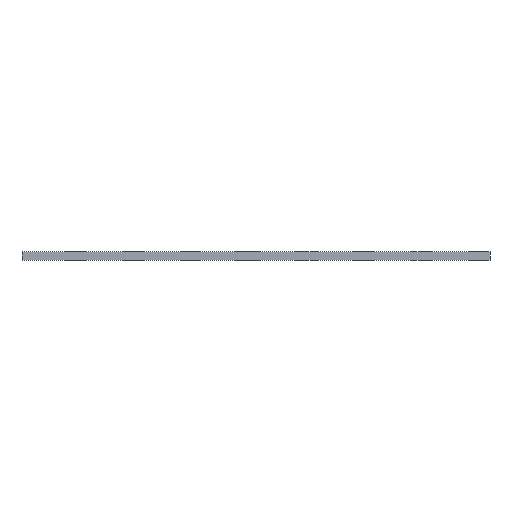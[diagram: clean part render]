
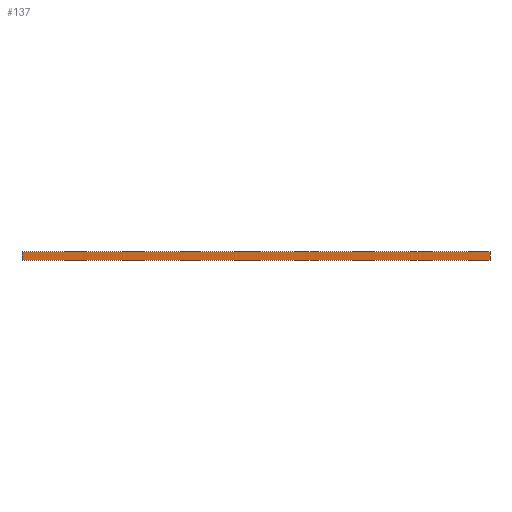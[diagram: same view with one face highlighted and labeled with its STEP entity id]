
A CAD part, front view. The second image highlights one B-rep face of the part: STEP entity #137.
In plain terms, the highlighted planar face has unit normal (0, -1, 0).
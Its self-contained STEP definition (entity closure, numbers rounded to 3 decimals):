
#21 = EDGE_CURVE('',#22,#24,#26,.T.);
#22 = VERTEX_POINT('',#23);
#23 = CARTESIAN_POINT('',(175.,104.,66.3));
#24 = VERTEX_POINT('',#25);
#25 = CARTESIAN_POINT('',(175.,104.,67.5));
#26 = SURFACE_CURVE('',#27,(#31,#43),.PCURVE_S1.);
#27 = LINE('',#28,#29);
#28 = CARTESIAN_POINT('',(175.,104.,66.3));
#29 = VECTOR('',#30,1.);
#30 = DIRECTION('',(0.,0.,1.));
#31 = PCURVE('',#32,#37);
#32 = PLANE('',#33);
#33 = AXIS2_PLACEMENT_3D('',#34,#35,#36);
#34 = CARTESIAN_POINT('',(175.,104.,66.3));
#35 = DIRECTION('',(1.,0.,0.));
#36 = DIRECTION('',(0.,0.,1.));
#37 = DEFINITIONAL_REPRESENTATION('',(#38),#42);
#38 = LINE('',#39,#40);
#39 = CARTESIAN_POINT('',(0.,0.));
#40 = VECTOR('',#41,1.);
#41 = DIRECTION('',(1.,0.));
#42 = ( GEOMETRIC_REPRESENTATION_CONTEXT(2) 
PARAMETRIC_REPRESENTATION_CONTEXT() REPRESENTATION_CONTEXT('2D SPACE',''
  ) );
#43 = PCURVE('',#44,#49);
#44 = PLANE('',#45);
#45 = AXIS2_PLACEMENT_3D('',#46,#47,#48);
#46 = CARTESIAN_POINT('',(175.,104.,66.3));
#47 = DIRECTION('',(0.,1.,0.));
#48 = DIRECTION('',(0.,0.,1.));
#49 = DEFINITIONAL_REPRESENTATION('',(#50),#54);
#50 = LINE('',#51,#52);
#51 = CARTESIAN_POINT('',(0.,0.));
#52 = VECTOR('',#53,1.);
#53 = DIRECTION('',(1.,0.));
#54 = ( GEOMETRIC_REPRESENTATION_CONTEXT(2) 
PARAMETRIC_REPRESENTATION_CONTEXT() REPRESENTATION_CONTEXT('2D SPACE',''
  ) );
#72 = PLANE('',#73);
#73 = AXIS2_PLACEMENT_3D('',#74,#75,#76);
#74 = CARTESIAN_POINT('',(175.,104.,66.3));
#75 = DIRECTION('',(0.,0.,1.));
#76 = DIRECTION('',(1.,0.,0.));
#126 = PLANE('',#127);
#127 = AXIS2_PLACEMENT_3D('',#128,#129,#130);
#128 = CARTESIAN_POINT('',(175.,104.,67.5));
#129 = DIRECTION('',(0.,0.,1.));
#130 = DIRECTION('',(1.,0.,0.));
#137 = ADVANCED_FACE('',(#138),#44,.F.);
#138 = FACE_BOUND('',#139,.F.);
#139 = EDGE_LOOP('',(#140,#163,#164,#187));
#140 = ORIENTED_EDGE('',*,*,#141,.F.);
#141 = EDGE_CURVE('',#22,#142,#144,.T.);
#142 = VERTEX_POINT('',#143);
#143 = CARTESIAN_POINT('',(240.,104.,66.3));
#144 = SURFACE_CURVE('',#145,(#149,#156),.PCURVE_S1.);
#145 = LINE('',#146,#147);
#146 = CARTESIAN_POINT('',(175.,104.,66.3));
#147 = VECTOR('',#148,1.);
#148 = DIRECTION('',(1.,0.,0.));
#149 = PCURVE('',#44,#150);
#150 = DEFINITIONAL_REPRESENTATION('',(#151),#155);
#151 = LINE('',#152,#153);
#152 = CARTESIAN_POINT('',(0.,0.));
#153 = VECTOR('',#154,1.);
#154 = DIRECTION('',(0.,1.));
#155 = ( GEOMETRIC_REPRESENTATION_CONTEXT(2) 
PARAMETRIC_REPRESENTATION_CONTEXT() REPRESENTATION_CONTEXT('2D SPACE',''
  ) );
#156 = PCURVE('',#72,#157);
#157 = DEFINITIONAL_REPRESENTATION('',(#158),#162);
#158 = LINE('',#159,#160);
#159 = CARTESIAN_POINT('',(0.,0.));
#160 = VECTOR('',#161,1.);
#161 = DIRECTION('',(1.,0.));
#162 = ( GEOMETRIC_REPRESENTATION_CONTEXT(2) 
PARAMETRIC_REPRESENTATION_CONTEXT() REPRESENTATION_CONTEXT('2D SPACE',''
  ) );
#163 = ORIENTED_EDGE('',*,*,#21,.T.);
#164 = ORIENTED_EDGE('',*,*,#165,.T.);
#165 = EDGE_CURVE('',#24,#166,#168,.T.);
#166 = VERTEX_POINT('',#167);
#167 = CARTESIAN_POINT('',(240.,104.,67.5));
#168 = SURFACE_CURVE('',#169,(#173,#180),.PCURVE_S1.);
#169 = LINE('',#170,#171);
#170 = CARTESIAN_POINT('',(175.,104.,67.5));
#171 = VECTOR('',#172,1.);
#172 = DIRECTION('',(1.,0.,0.));
#173 = PCURVE('',#44,#174);
#174 = DEFINITIONAL_REPRESENTATION('',(#175),#179);
#175 = LINE('',#176,#177);
#176 = CARTESIAN_POINT('',(1.2,0.));
#177 = VECTOR('',#178,1.);
#178 = DIRECTION('',(0.,1.));
#179 = ( GEOMETRIC_REPRESENTATION_CONTEXT(2) 
PARAMETRIC_REPRESENTATION_CONTEXT() REPRESENTATION_CONTEXT('2D SPACE',''
  ) );
#180 = PCURVE('',#126,#181);
#181 = DEFINITIONAL_REPRESENTATION('',(#182),#186);
#182 = LINE('',#183,#184);
#183 = CARTESIAN_POINT('',(0.,0.));
#184 = VECTOR('',#185,1.);
#185 = DIRECTION('',(1.,0.));
#186 = ( GEOMETRIC_REPRESENTATION_CONTEXT(2) 
PARAMETRIC_REPRESENTATION_CONTEXT() REPRESENTATION_CONTEXT('2D SPACE',''
  ) );
#187 = ORIENTED_EDGE('',*,*,#188,.F.);
#188 = EDGE_CURVE('',#142,#166,#189,.T.);
#189 = SURFACE_CURVE('',#190,(#194,#201),.PCURVE_S1.);
#190 = LINE('',#191,#192);
#191 = CARTESIAN_POINT('',(240.,104.,66.3));
#192 = VECTOR('',#193,1.);
#193 = DIRECTION('',(0.,0.,1.));
#194 = PCURVE('',#44,#195);
#195 = DEFINITIONAL_REPRESENTATION('',(#196),#200);
#196 = LINE('',#197,#198);
#197 = CARTESIAN_POINT('',(0.,65.));
#198 = VECTOR('',#199,1.);
#199 = DIRECTION('',(1.,0.));
#200 = ( GEOMETRIC_REPRESENTATION_CONTEXT(2) 
PARAMETRIC_REPRESENTATION_CONTEXT() REPRESENTATION_CONTEXT('2D SPACE',''
  ) );
#201 = PCURVE('',#202,#207);
#202 = PLANE('',#203);
#203 = AXIS2_PLACEMENT_3D('',#204,#205,#206);
#204 = CARTESIAN_POINT('',(240.,104.,66.3));
#205 = DIRECTION('',(1.,0.,0.));
#206 = DIRECTION('',(0.,0.,1.));
#207 = DEFINITIONAL_REPRESENTATION('',(#208),#212);
#208 = LINE('',#209,#210);
#209 = CARTESIAN_POINT('',(0.,0.));
#210 = VECTOR('',#211,1.);
#211 = DIRECTION('',(1.,0.));
#212 = ( GEOMETRIC_REPRESENTATION_CONTEXT(2) 
PARAMETRIC_REPRESENTATION_CONTEXT() REPRESENTATION_CONTEXT('2D SPACE',''
  ) );
